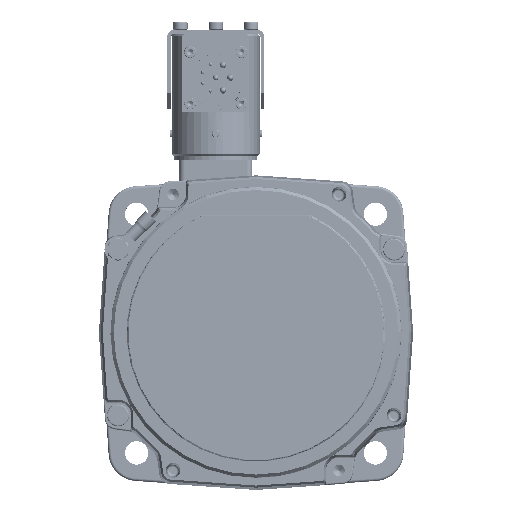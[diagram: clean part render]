
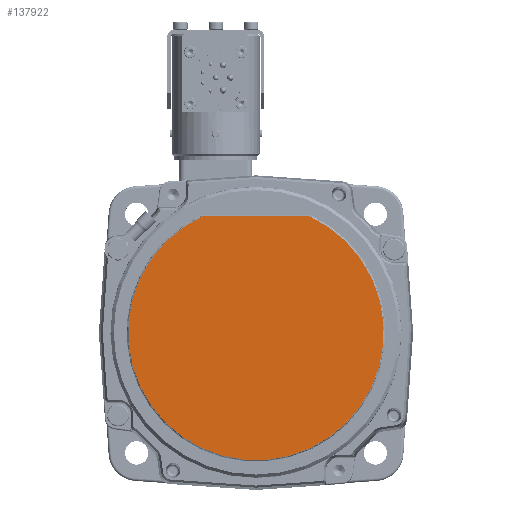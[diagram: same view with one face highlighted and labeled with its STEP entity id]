
A CAD part, top view. The second image highlights one B-rep face of the part: STEP entity #137922.
In plain terms, the highlighted planar face has unit normal (0, 0, 1).
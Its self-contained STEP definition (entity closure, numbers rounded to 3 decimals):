
#129423=CARTESIAN_POINT('',(0.,0.,63.9));
#129424=DIRECTION('',(0.,0.,-1.));
#129425=DIRECTION('',(0.418,0.908,0.));
#129426=AXIS2_PLACEMENT_3D('',#129423,#129424,#129425);
#129435=DIRECTION('',(-1.,0.,0.));
#129436=VECTOR('',#129435,41.125);
#129437=CARTESIAN_POINT('',(20.562,44.7,63.9));
#129438=LINE('',#129437,#129436);
#130113=CARTESIAN_POINT('',(20.562,44.7,63.9));
#130114=CARTESIAN_POINT('',(-20.562,44.7,63.9));
#130115=VERTEX_POINT('',#130113);
#130116=VERTEX_POINT('',#130114);
#137913=CARTESIAN_POINT('',(0.,0.,63.9));
#137914=DIRECTION('',(0.,0.,1.));
#137915=DIRECTION('',(1.,0.,0.));
#137916=AXIS2_PLACEMENT_3D('',#137913,#137914,#137915);
#137917=PLANE('',#137916);
#137918=ORIENTED_EDGE('',*,*,#137892,.T.);
#137919=ORIENTED_EDGE('',*,*,#137904,.F.);
#137920=EDGE_LOOP('',(#137918,#137919));
#137921=FACE_OUTER_BOUND('',#137920,.F.);
#137922=ADVANCED_FACE('',(#137921),#137917,.T.);
#129427=CIRCLE('',#129426,49.203);
#137892=EDGE_CURVE('',#130115,#130116,#129427,.T.);
#137904=EDGE_CURVE('',#130115,#130116,#129438,.T.);
